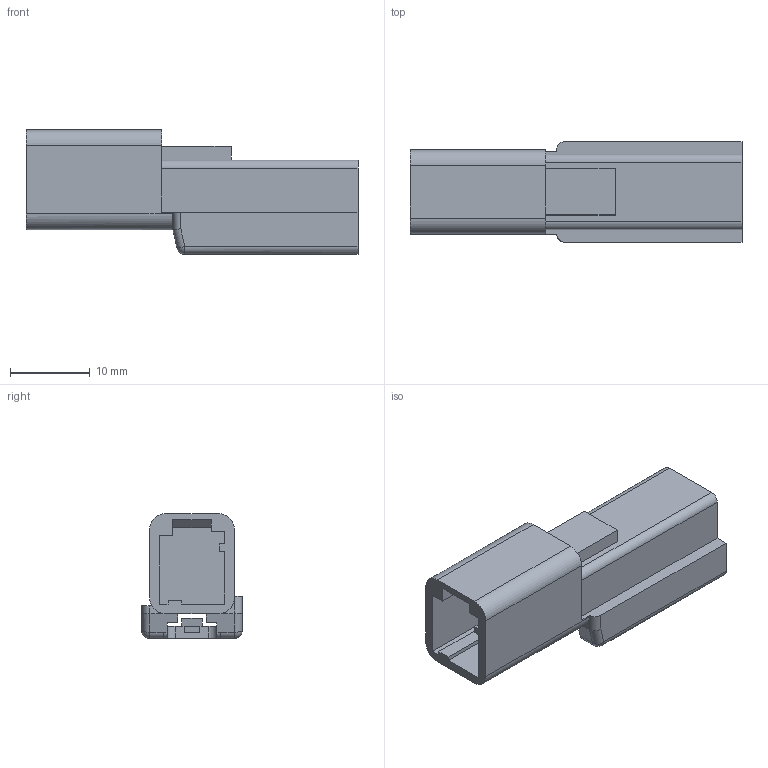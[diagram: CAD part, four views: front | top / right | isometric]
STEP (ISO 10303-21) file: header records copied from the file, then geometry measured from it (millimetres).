
FILE_DESCRIPTION(('CATIA V5 STEP','CAx-IF Rec.Pracs.--- Model Styling and Organization---1.4--- 2014-01-23'),'2;1');
FILE_NAME('\\fs0427\Server\共有情報\コネクタ開発部\特命業務\特ｰ35ｰ部品総合カタログメンテナンス\21年度\掲載用３Dモデル\ETHERNET\ETHERNET３D(トヨタ提出していないものがあるのでチェックしてください）\6910-8306.stp','2023-04-06T00:01:34+00:00',('none'),('none'),'CATIA Version 5-6 Release 2017 SP5 HF58','CATIA V5 STEP AP214','none');
FILE_SCHEMA(('AUTOMOTIVE_DESIGN { 1 0 10303 214 1 1 1 1 }'));
Length unit declared in the file: millimetre
Products named in the file (1): 6910-8306
Bounding box: 41.6 x 12.6 x 15.65 mm (x, y, z)
Volume: 3620 mm3; surface area: 3239.3 mm2
Topology: 1 solids, 1 shells, 123 faces, 371 edges, 247 vertices
Faces by surface type: plane 101, cylinder 20, sphere 2
Entity records: 4031 total; most frequent: CARTESIAN_POINT 751, ORIENTED_EDGE 738, DIRECTION 579, EDGE_CURVE 369, VECTOR 320, LINE 320, VERTEX_POINT 247, AXIS2_PLACEMENT_3D 150
